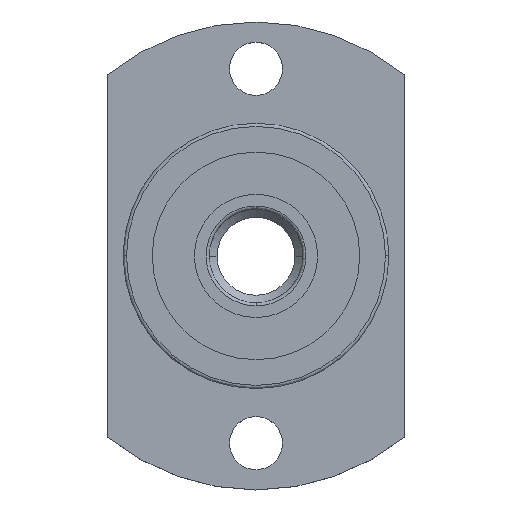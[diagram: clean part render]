
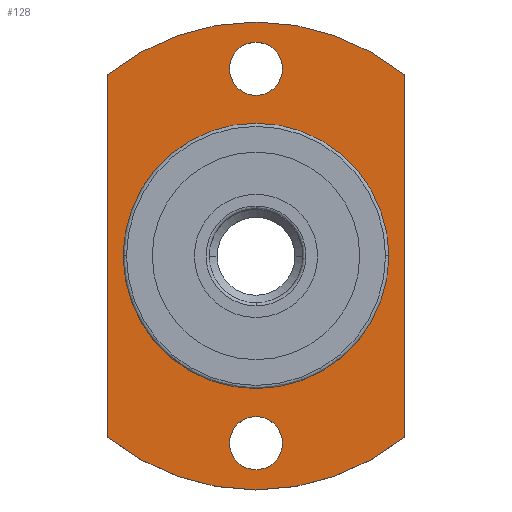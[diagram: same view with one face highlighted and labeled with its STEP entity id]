
A CAD part, top view. The second image highlights one B-rep face of the part: STEP entity #128.
In plain terms, the highlighted planar face has unit normal (0, 0, 1).
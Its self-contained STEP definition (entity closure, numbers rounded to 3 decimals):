
#1 = VERTEX_POINT ( 'NONE', #1272 ) ;
#5 = EDGE_CURVE ( 'NONE', #6, #1, #1267, .T. ) ;
#6 = VERTEX_POINT ( 'NONE', #1262 ) ;
#21 = VERTEX_POINT ( 'NONE', #1290 ) ;
#118 = ORIENTED_EDGE ( 'NONE', *, *, #119, .F. ) ;
#119 = EDGE_CURVE ( 'NONE', #6049, #5840, #1420, .T. ) ;
#120 = ORIENTED_EDGE ( 'NONE', *, *, #6048, .F. ) ;
#121 = EDGE_LOOP ( 'NONE', ( #122, #1121 ) ) ;
#122 = ORIENTED_EDGE ( 'NONE', *, *, #6017, .F. ) ;
#128 = ADVANCED_FACE ( 'NONE', ( #1475, #1474, #1473, #1472 ), #1471, .T. ) ;
#129 = EDGE_LOOP ( 'NONE', ( #118, #120 ) ) ;
#1046 = ORIENTED_EDGE ( 'NONE', *, *, #1127, .T. ) ;
#1047 = EDGE_CURVE ( 'NONE', #6, #5865, #4387, .T. ) ;
#1048 = ORIENTED_EDGE ( 'NONE', *, *, #5863, .F. ) ;
#1112 = EDGE_CURVE ( 'NONE', #6012, #6015, #4461, .T. ) ;
#1114 = EDGE_LOOP ( 'NONE', ( #1126, #1124, #1048, #1046 ) ) ;
#1120 = ORIENTED_EDGE ( 'NONE', *, *, #1112, .F. ) ;
#1121 = ORIENTED_EDGE ( 'NONE', *, *, #6062, .F. ) ;
#1122 = EDGE_LOOP ( 'NONE', ( #1123, #1120 ) ) ;
#1123 = ORIENTED_EDGE ( 'NONE', *, *, #6016, .F. ) ;
#1124 = ORIENTED_EDGE ( 'NONE', *, *, #1047, .T. ) ;
#1126 = ORIENTED_EDGE ( 'NONE', *, *, #5, .F. ) ;
#1127 = EDGE_CURVE ( 'NONE', #21, #1, #4503, .T. ) ;
#1262 = CARTESIAN_POINT ( 'NONE',  ( -9.5, 11.608, -0.5 ) ) ;
#1263 = DIRECTION ( 'NONE',  ( 1., 0., 0. ) ) ;
#1264 = DIRECTION ( 'NONE',  ( 0., 0., -1. ) ) ;
#1265 = CARTESIAN_POINT ( 'NONE',  ( 0., 0., -0.5 ) ) ;
#1266 = AXIS2_PLACEMENT_3D ( 'NONE', #1265, #1264, #1263 ) ;
#1267 = CIRCLE ( 'NONE', #1266, 15. ) ;
#1272 = CARTESIAN_POINT ( 'NONE',  ( 9.5, 11.608, -0.5 ) ) ;
#1290 = CARTESIAN_POINT ( 'NONE',  ( 9.5, -11.608, -0.5 ) ) ;
#1416 = DIRECTION ( 'NONE',  ( 1., 0., 0. ) ) ;
#1417 = DIRECTION ( 'NONE',  ( 0., 0., 1. ) ) ;
#1418 = CARTESIAN_POINT ( 'NONE',  ( 0., 12., -0.5 ) ) ;
#1419 = AXIS2_PLACEMENT_3D ( 'NONE', #1418, #1417, #1416 ) ;
#1420 = CIRCLE ( 'NONE', #1419, 1.7 ) ;
#1467 = DIRECTION ( 'NONE',  ( 1., 0., 0. ) ) ;
#1468 = DIRECTION ( 'NONE',  ( 0., 0., 1. ) ) ;
#1469 = CARTESIAN_POINT ( 'NONE',  ( 0., 0., -0.5 ) ) ;
#1470 = AXIS2_PLACEMENT_3D ( 'NONE', #1469, #1468, #1467 ) ;
#1471 = PLANE ( 'NONE',  #1470 ) ;
#1472 = FACE_OUTER_BOUND ( 'NONE', #1114, .T. ) ;
#1473 = FACE_BOUND ( 'NONE', #1122, .T. ) ;
#1474 = FACE_BOUND ( 'NONE', #121, .T. ) ;
#1475 = FACE_BOUND ( 'NONE', #129, .T. ) ;
#4384 = DIRECTION ( 'NONE',  ( 0., -1., 0. ) ) ;
#4385 = VECTOR ( 'NONE', #4384, 1000. ) ;
#4386 = CARTESIAN_POINT ( 'NONE',  ( -9.5, 0., -0.5 ) ) ;
#4387 = LINE ( 'NONE', #4386, #4385 ) ;
#4457 = DIRECTION ( 'NONE',  ( 1., 0., 0. ) ) ;
#4458 = DIRECTION ( 'NONE',  ( 0., 0., 1. ) ) ;
#4459 = CARTESIAN_POINT ( 'NONE',  ( 0., 0., -0.5 ) ) ;
#4460 = AXIS2_PLACEMENT_3D ( 'NONE', #4459, #4458, #4457 ) ;
#4461 = CIRCLE ( 'NONE', #4460, 8.5 ) ;
#4500 = DIRECTION ( 'NONE',  ( 0., 1., 0. ) ) ;
#4501 = VECTOR ( 'NONE', #4500, 1000. ) ;
#4502 = CARTESIAN_POINT ( 'NONE',  ( 9.5, 0., -0.5 ) ) ;
#4503 = LINE ( 'NONE', #4502, #4501 ) ;
#4746 = CARTESIAN_POINT ( 'NONE',  ( -1.7, 12., -0.5 ) ) ;
#4762 = CARTESIAN_POINT ( 'NONE',  ( -9.5, -11.608, -0.5 ) ) ;
#4764 = DIRECTION ( 'NONE',  ( 1., 0., 0. ) ) ;
#4765 = DIRECTION ( 'NONE',  ( 0., 0., -1. ) ) ;
#4766 = CARTESIAN_POINT ( 'NONE',  ( 0., 0., -0.5 ) ) ;
#4767 = AXIS2_PLACEMENT_3D ( 'NONE', #4766, #4765, #4764 ) ;
#4768 = CIRCLE ( 'NONE', #4767, 15. ) ;
#5096 = DIRECTION ( 'NONE',  ( 1., 0., 0. ) ) ;
#5097 = DIRECTION ( 'NONE',  ( 0., 0., 1. ) ) ;
#5098 = CARTESIAN_POINT ( 'NONE',  ( 0., -12., -0.5 ) ) ;
#5099 = AXIS2_PLACEMENT_3D ( 'NONE', #5098, #5097, #5096 ) ;
#5100 = CIRCLE ( 'NONE', #5099, 1.7 ) ;
#5101 = DIRECTION ( 'NONE',  ( 1., 0., 0. ) ) ;
#5102 = DIRECTION ( 'NONE',  ( 0., 0., 1. ) ) ;
#5103 = CARTESIAN_POINT ( 'NONE',  ( 0., 0., -0.5 ) ) ;
#5104 = AXIS2_PLACEMENT_3D ( 'NONE', #5103, #5102, #5101 ) ;
#5105 = CIRCLE ( 'NONE', #5104, 8.5 ) ;
#5106 = CARTESIAN_POINT ( 'NONE',  ( 8.5, 0., -0.5 ) ) ;
#5107 = CARTESIAN_POINT ( 'NONE',  ( -8.5, 0., -0.5 ) ) ;
#5186 = CARTESIAN_POINT ( 'NONE',  ( 1.7, 12., -0.5 ) ) ;
#5187 = DIRECTION ( 'NONE',  ( 1., 0., 0. ) ) ;
#5188 = DIRECTION ( 'NONE',  ( 0., 0., 1. ) ) ;
#5189 = CARTESIAN_POINT ( 'NONE',  ( 0., 12., -0.5 ) ) ;
#5190 = AXIS2_PLACEMENT_3D ( 'NONE', #5189, #5188, #5187 ) ;
#5191 = CIRCLE ( 'NONE', #5190, 1.7 ) ;
#5224 = CARTESIAN_POINT ( 'NONE',  ( 1.7, -12., -0.5 ) ) ;
#5225 = DIRECTION ( 'NONE',  ( 1., 0., 0. ) ) ;
#5226 = DIRECTION ( 'NONE',  ( 0., 0., 1. ) ) ;
#5227 = CARTESIAN_POINT ( 'NONE',  ( 0., -12., -0.5 ) ) ;
#5228 = AXIS2_PLACEMENT_3D ( 'NONE', #5227, #5226, #5225 ) ;
#5229 = CIRCLE ( 'NONE', #5228, 1.7 ) ;
#5230 = CARTESIAN_POINT ( 'NONE',  ( -1.7, -12., -0.5 ) ) ;
#5840 = VERTEX_POINT ( 'NONE', #4746 ) ;
#5863 = EDGE_CURVE ( 'NONE', #21, #5865, #4768, .T. ) ;
#5865 = VERTEX_POINT ( 'NONE', #4762 ) ;
#6012 = VERTEX_POINT ( 'NONE', #5107 ) ;
#6015 = VERTEX_POINT ( 'NONE', #5106 ) ;
#6016 = EDGE_CURVE ( 'NONE', #6015, #6012, #5105, .T. ) ;
#6017 = EDGE_CURVE ( 'NONE', #6063, #6060, #5100, .T. ) ;
#6048 = EDGE_CURVE ( 'NONE', #5840, #6049, #5191, .T. ) ;
#6049 = VERTEX_POINT ( 'NONE', #5186 ) ;
#6060 = VERTEX_POINT ( 'NONE', #5230 ) ;
#6062 = EDGE_CURVE ( 'NONE', #6060, #6063, #5229, .T. ) ;
#6063 = VERTEX_POINT ( 'NONE', #5224 ) ;
